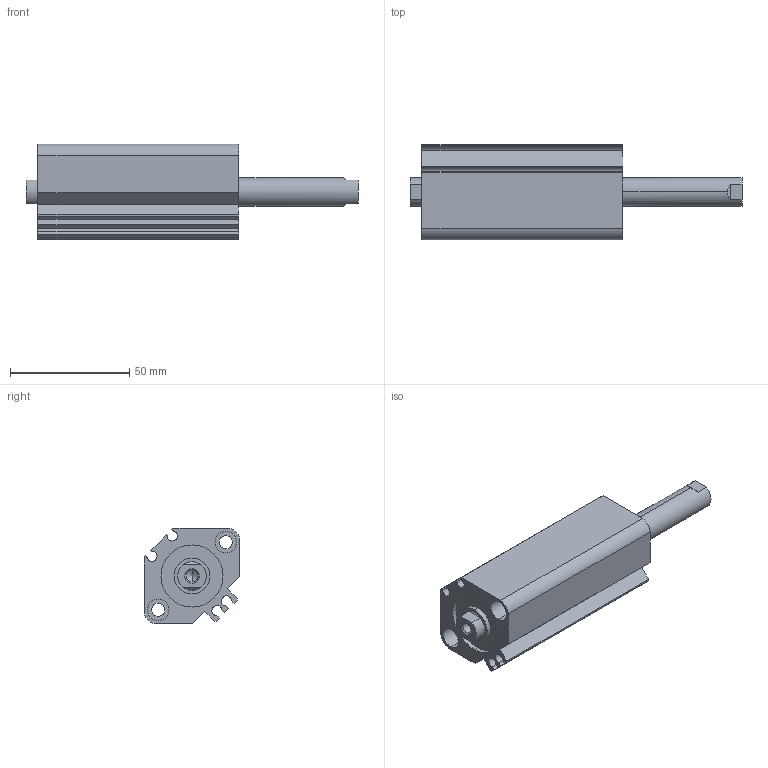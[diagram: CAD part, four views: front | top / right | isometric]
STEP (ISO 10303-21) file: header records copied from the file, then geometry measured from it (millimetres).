
FILE_DESCRIPTION (( 'STEP AP203' ), '1' );
FILE_NAME ('CCMB25-45F-P.STEP', '2020-08-05T11:11:10', ( '' ), ( '' ), 'SwSTEP 2.0', 'SolidWorks 2019', '' );
FILE_SCHEMA (( 'CONFIG_CONTROL_DESIGN' ));
Length unit declared in the file: millimetre
Products named in the file (1): CCMB25-45F-P
Bounding box: 139 x 40 x 40 mm (x, y, z)
Volume: 94615.8 mm3; surface area: 35610 mm2
Topology: 2 solids, 2 shells, 114 faces, 276 edges, 178 vertices
Faces by surface type: cylinder 52, plane 50, cone 12
Entity records: 3415 total; most frequent: DIRECTION 606, CARTESIAN_POINT 589, ORIENTED_EDGE 544, EDGE_CURVE 272, AXIS2_PLACEMENT_3D 227, VERTEX_POINT 178, LINE 152, VECTOR 152
